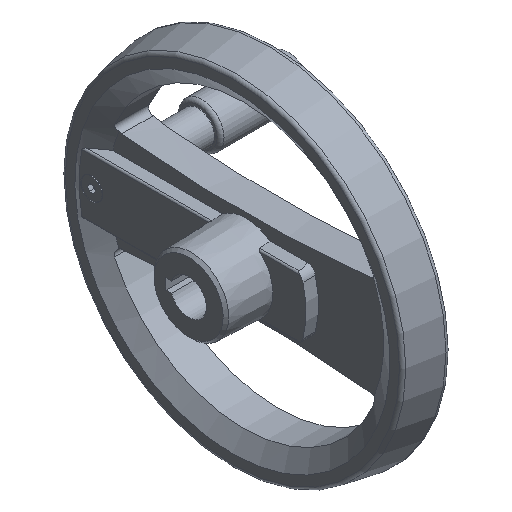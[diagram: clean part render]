
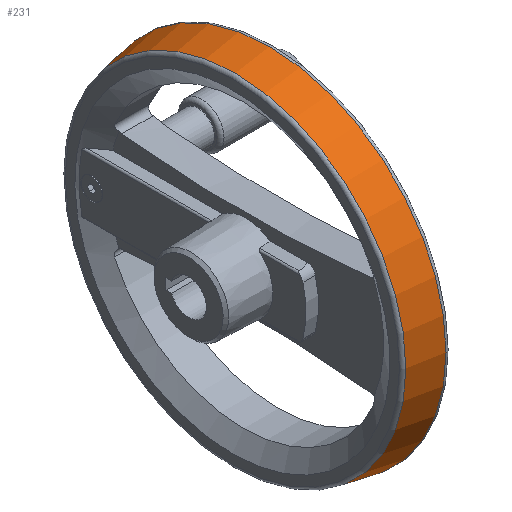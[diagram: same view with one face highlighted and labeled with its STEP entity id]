
A CAD part, isometric view. The second image highlights one B-rep face of the part: STEP entity #231.
In plain terms, the highlighted conical face has half-angle 9.986 degrees and reference radius 96.36 mm.
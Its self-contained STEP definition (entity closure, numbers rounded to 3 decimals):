
#231 = ADVANCED_FACE( '', ( #420, #421 ), #422, .T. );
#420 = FACE_OUTER_BOUND( '', #676, .T. );
#421 = FACE_BOUND( '', #677, .T. );
#422 = CONICAL_SURFACE( '', #678, 96.36, 0.174 );
#676 = EDGE_LOOP( '', ( #1267 ) );
#677 = EDGE_LOOP( '', ( #1268 ) );
#678 = AXIS2_PLACEMENT_3D( '', #1269, #1270, #1271 );
#1267 = ORIENTED_EDGE( '', *, *, #1743, .F. );
#1268 = ORIENTED_EDGE( '', *, *, #1744, .T. );
#1269 = CARTESIAN_POINT( '', ( 26.353, 0., 0. ) );
#1270 = DIRECTION( '', ( 1., 0., 0. ) );
#1271 = DIRECTION( '', ( 0., 0., -1. ) );
#1743 = EDGE_CURVE( '', #2103, #2103, #2104, .T. );
#1744 = EDGE_CURVE( '', #2105, #2105, #2106, .T. );
#2103 = VERTEX_POINT( '', #2996 );
#2104 = CIRCLE( '', #2997, 99.76 );
#2105 = VERTEX_POINT( '', #2998 );
#2106 = CIRCLE( '', #2999, 96.36 );
#2996 = CARTESIAN_POINT( '', ( 45.663, 0., -99.76 ) );
#2997 = AXIS2_PLACEMENT_3D( '', #3423, #3424, #3425 );
#2998 = CARTESIAN_POINT( '', ( 26.353, 0., -96.36 ) );
#2999 = AXIS2_PLACEMENT_3D( '', #3426, #3427, #3428 );
#3423 = CARTESIAN_POINT( '', ( 45.663, 0., 0. ) );
#3424 = DIRECTION( '', ( 1., 0., 0. ) );
#3425 = DIRECTION( '', ( 0., 0., -1. ) );
#3426 = CARTESIAN_POINT( '', ( 26.353, 0., 0. ) );
#3427 = DIRECTION( '', ( 1., 0., 0. ) );
#3428 = DIRECTION( '', ( 0., 0., -1. ) );
